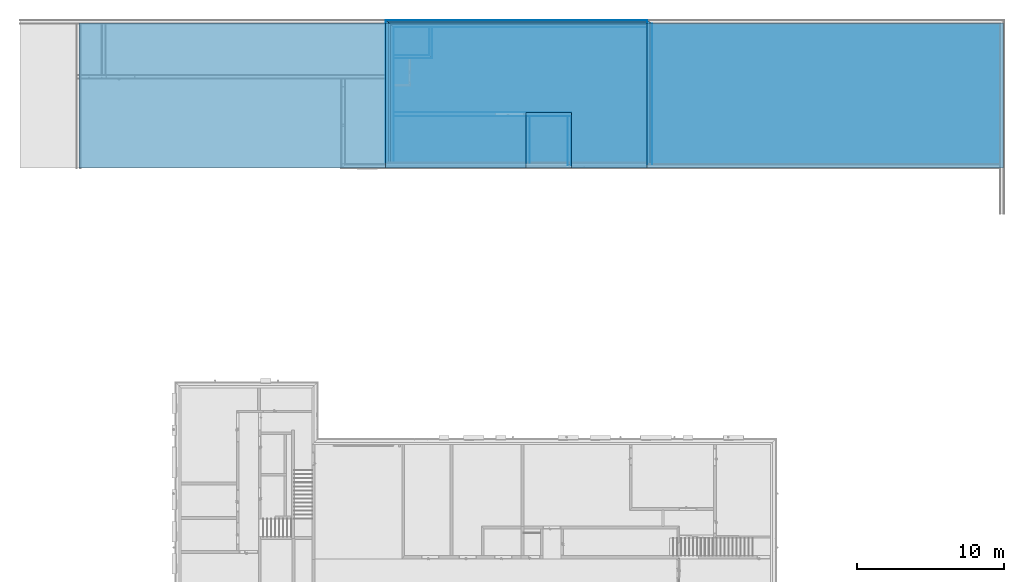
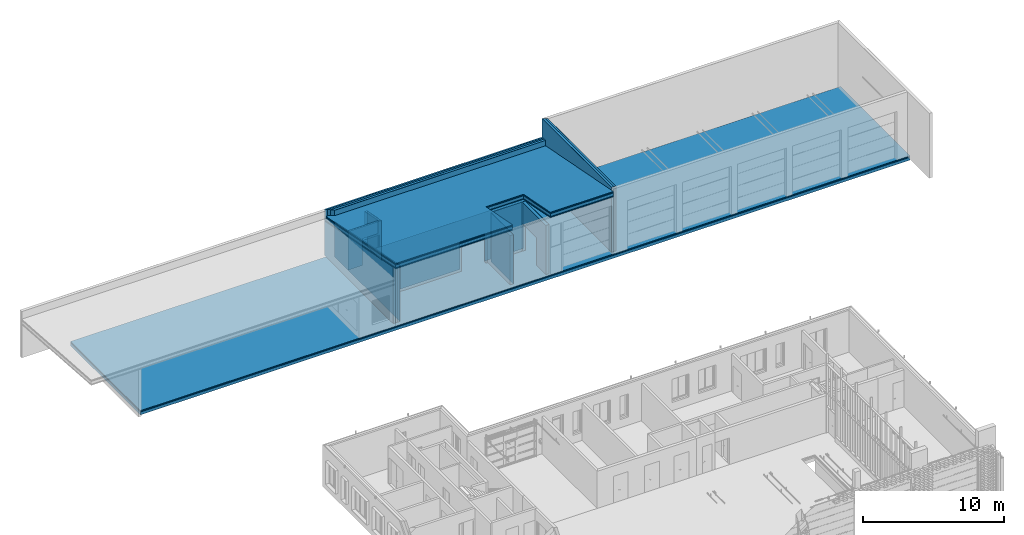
# One storey, part 25 of 62: 38 building element parts, 3 openings, 10 elements without a shape of their own.
"""IFC2X3 building model written with IfcOpenShell, lengths in millimetres."""

from ifc_helpers import new_model, entity, si_unit, converted_unit, derived_unit, money_unit, direction, frame, origin_with_axes, origin_2d_with_axis, place, context, subcontext, project, spatial, polyline, rectangle, outline, extrude, clip, halfspace, bounded_halfspace, material, type_object, element, aggregate, save


model = new_model("IFC2X3")

# Units and contexts
model_context = context("Model", 3, precision=0.01, world=origin_with_axes(), true_north=direction((0.0, 1.0)))
body_context = subcontext(model_context, "Body", "Model", "MODEL_VIEW")
ifc_project = project(units=[si_unit("LENGTHUNIT", "METRE", prefix="MILLI"), si_unit("AREAUNIT", "SQUARE_METRE"), si_unit("VOLUMEUNIT", "CUBIC_METRE"), converted_unit("PLANEANGLEUNIT", "DEGREE", entity("IfcPlaneAngleMeasure", 0.0174532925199), si_unit("PLANEANGLEUNIT", "RADIAN"), dimensions=[0, 0, 0, 0, 0, 0, 0]), si_unit("SOLIDANGLEUNIT", "STERADIAN"), money_unit("EUR"), converted_unit("TIMEUNIT", "Year", entity("IfcTimeMeasure", 31556926.0), si_unit("TIMEUNIT", "SECOND"), dimensions=[0, 0, 1, 0, 0, 0, 0]), si_unit("MASSUNIT", "GRAM", prefix="KILO"), si_unit("THERMODYNAMICTEMPERATUREUNIT", "DEGREE_CELSIUS"), si_unit("LUMINOUSINTENSITYUNIT", "LUMEN"), si_unit("ENERGYUNIT", "JOULE", prefix="MEGA"), derived_unit("THERMALCONDUCTANCEUNIT", [(si_unit("POWERUNIT", "WATT"), 1), (si_unit("LENGTHUNIT", "METRE"), -1), (si_unit("THERMODYNAMICTEMPERATUREUNIT", "KELVIN"), -1)]), derived_unit("SPECIFICHEATCAPACITYUNIT", [(si_unit("ENERGYUNIT", "JOULE"), 1), (si_unit("MASSUNIT", "GRAM", prefix="KILO"), -1), (si_unit("THERMODYNAMICTEMPERATUREUNIT", "KELVIN"), -1)]), derived_unit("MASSDENSITYUNIT", [(si_unit("MASSUNIT", "GRAM", prefix="KILO"), 1), (si_unit("VOLUMEUNIT", "CUBIC_METRE"), -1)])], contexts=[model_context])

# Site, building, storey
site_placement = place(None, origin_with_axes())
site = spatial("IfcSite", under=ifc_project, at=site_placement, Name="KIRDE 14, ELVA", CompositionType="ELEMENT")
building_placement = place(site_placement, origin_with_axes())
building = spatial("IfcBuilding", under=site, at=building_placement, Name="PPA ja Päästeameti ühishoone", CompositionType="ELEMENT")
storey_placement = place(building_placement, origin_with_axes())
storey = spatial("IfcBuildingStorey", under=building, at=storey_placement, Name="Esimene korrus", CompositionType="ELEMENT", Elevation=0.0)

# Wall, building element parts
wall_type_1 = type_object("IfcWallType", Name="A-VS01 497", PredefinedType="NOTDEFINED")
wall_1_placement = place(storey_placement, frame((32017.6217775, 49101.5478995, 0.0), z_axis=(0.0, 0.0, 1.0), x_axis=(-1.0, 0.0, 0.0)))
wall_1 = element("IfcWall", 1, at=wall_1_placement, inside=storey, type_object=wall_type_1, Name="A-VS02")
ifc_material_1 = material(Name="Krohv")
building_element_part_1_placement = place(wall_1_placement, origin_with_axes())
building_element_part_1 = element("IfcBuildingElementPart", 2, at=building_element_part_1_placement, material=ifc_material_1, Name="Krohv", context=body_context, shape_type="SweptSolid", body=[
    extrude(outline(polyline([(350.0, -12.0), (17579.8558887, -12.0), (17566.6486452, 0.0), (350.0, 0.0), (350.0, -12.0)])), origin_with_axes(), (0.0, 0.0, 1.0), 4000.0),
])
ifc_material_2 = material(Name="COLUMBIA KIVI")
building_element_part_2_placement = place(wall_1_placement, origin_with_axes())
building_element_part_2 = element("IfcBuildingElementPart", 3, at=building_element_part_2_placement, material=ifc_material_2, Name="COLUMBIA KIVI", context=body_context, shape_type="SweptSolid", body=[
    extrude(outline(polyline([(350.0, -202.0), (17788.9705768, -202.0), (17579.8558887, -12.0), (350.0, -12.0), (350.0, -202.0)])), origin_with_axes(), (0.0, 0.0, 1.0), 4000.0),
])
ifc_material_3 = material(Name="Mineraalvill")
building_element_part_3_placement = place(wall_1_placement, origin_with_axes())
building_element_part_3 = element("IfcBuildingElementPart", 4, at=building_element_part_3_placement, material=ifc_material_3, Name="Mineraalvill", context=body_context, shape_type="SweptSolid", body=[
    extrude(outline(polyline([(350.0, -352.0), (17954.0611201, -352.0), (17788.9705768, -202.0), (350.0, -202.0), (350.0, -352.0)])), origin_with_axes(), (0.0, 0.0, 1.0), 4000.0),
])
building_element_part_4_placement = place(wall_1_placement, origin_with_axes())
building_element_part_4 = element("IfcBuildingElementPart", 5, at=building_element_part_4_placement, material=ifc_material_2, Name="COLUMBIA KIVI", context=body_context, shape_type="SweptSolid", body=[
    extrude(outline(polyline([(350.0, -492.0), (18108.1456271, -492.0), (17954.0611201, -352.0), (350.0, -352.0), (350.0, -492.0)])), origin_with_axes(), (0.0, 0.0, 1.0), 4000.0),
])
building_element_part_5_placement = place(wall_1_placement, origin_with_axes())
building_element_part_5 = element("IfcBuildingElementPart", 6, at=building_element_part_5_placement, material=ifc_material_1, Name="Krohv", context=body_context, shape_type="SweptSolid", body=[
    extrude(outline(polyline([(350.0, -497.0), (18113.6486452, -497.0), (18108.1456271, -492.0), (350.0, -492.0), (350.0, -497.0)])), origin_with_axes(), (0.0, 0.0, 1.0), 4000.0),
])
aggregate(wall_1, [building_element_part_1, building_element_part_2, building_element_part_3, building_element_part_4, building_element_part_5])

# Wall, opening, building element parts
wall_type_2 = type_object("IfcWallType", Name="A-SS01 260", PredefinedType="USERDEFINED")
wall_2_placement = place(storey_placement, frame((26266.6550172, 43320.5479045, 0.0), z_axis=(0.0, 0.0, 1.0), x_axis=(0.0, -1.0, 0.0)))
wall_2 = element("IfcWall", 7, at=wall_2_placement, inside=storey, type_object=wall_type_2, Name="ASS-01", ObjectType="PARTITIONING")
opening_1_placement = place(wall_2_placement, frame((1275.2882142, 0.0, 0.0), z_axis=(0.0, 0.0, 1.0), x_axis=(1.0, 0.0, 0.0)))
element("IfcOpeningElement", 8, at=opening_1_placement, cuts=wall_2, Name="SUA-01", context=body_context, shape_type="SweptSolid", body=[
    extrude(rectangle(XDim=2000.0, YDim=2380.0, at=origin_2d_with_axis()), frame((0.0, -260.0, 1190.0), z_axis=(0.0, -1.0, 0.0), x_axis=(-1.0, 0.0, 0.0)), (0.0, 0.0, -1.0), 780.0),
])
building_element_part_6_placement = place(wall_2_placement, origin_with_axes())
building_element_part_6 = element("IfcBuildingElementPart", 9, at=building_element_part_6_placement, material=ifc_material_1, Name="Krohv", context=body_context, shape_type="SweptSolid", body=[
    extrude(outline(polyline([(260.0, 0.0), (3591.00001647, 0.0), (3591.00001647, 5.0), (260.0, 5.0), (260.0, 0.0)])), origin_with_axes(), (0.0, 0.0, 1.0), 4242.94093413),
])
building_element_part_7_placement = place(wall_2_placement, origin_with_axes())
building_element_part_7 = element("IfcBuildingElementPart", 10, at=building_element_part_7_placement, material=ifc_material_2, Name="COLUMBIA KIVI", context=body_context, shape_type="SweptSolid", body=[
    extrude(outline(polyline([(260.0, 5.0), (3591.00001647, 5.0), (3591.00001647, 255.0), (260.0, 255.0), (260.0, 5.0)])), origin_with_axes(), (0.0, 0.0, 1.0), 4242.94093413),
])
building_element_part_8_placement = place(wall_2_placement, origin_with_axes())
building_element_part_8 = element("IfcBuildingElementPart", 11, at=building_element_part_8_placement, material=ifc_material_1, Name="Krohv", context=body_context, shape_type="SweptSolid", body=[
    extrude(outline(polyline([(260.0, 255.0), (3591.00001647, 255.0), (3591.00001647, 260.0), (260.0, 260.0), (260.0, 255.0)])), origin_with_axes(), (0.0, 0.0, 1.0), 4242.94093413),
])
aggregate(wall_2, [building_element_part_6, building_element_part_7, building_element_part_8])

# Plate, building element parts
plate_type = type_object("IfcPlateType", Name="A-PP01 370", PredefinedType="NOTDEFINED")
plate_placement = place(storey_placement, frame((-6935.83149044, 49393.5478739, 0.0), z_axis=(0.0, 0.0, 1.0), x_axis=(1.0, 0.0, 0.0)))
plate = element("IfcPlate", 12, at=plate_placement, inside=storey, type_object=plate_type, Name="A-PP01")
ifc_material_4 = material(Name="Kruus")
building_element_part_9_placement = place(plate_placement, origin_with_axes())
building_element_part_9 = element("IfcBuildingElementPart", 13, at=building_element_part_9_placement, material=ifc_material_4, Name="Kruus", context=body_context, shape_type="SweptSolid", body=[
    extrude(outline(polyline([(0.0, 0.0), (4.15262224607e-06, -9859.00003472), (62831.0930339, -9859.00001009), (62831.0930302, 2.73794285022e-05), (0.0, 0.0)])), frame((0.0, 0.0, -370.0), z_axis=(0.0, 0.0, 1.0), x_axis=(1.0, 0.0, 0.0)), (0.0, 0.0, 1.0), 250.0),
])
ifc_material_5 = material(Name="Liiv (2)")
building_element_part_10_placement = place(plate_placement, origin_with_axes())
building_element_part_10 = element("IfcBuildingElementPart", 14, at=building_element_part_10_placement, material=ifc_material_5, Name="Liiv (2)", context=body_context, shape_type="SweptSolid", body=[
    extrude(outline(polyline([(0.0, 0.0), (4.15262224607e-06, -9859.00003472), (62831.0930339, -9859.00001009), (62831.0930302, 2.73794285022e-05), (0.0, 0.0)])), frame((0.0, 0.0, -120.0), z_axis=(0.0, 0.0, 1.0), x_axis=(1.0, 0.0, 0.0)), (0.0, 0.0, 1.0), 40.0),
])
ifc_material_6 = material(Name="Betoonkivi")
building_element_part_11_placement = place(plate_placement, origin_with_axes())
building_element_part_11 = element("IfcBuildingElementPart", 15, at=building_element_part_11_placement, material=ifc_material_6, Name="Betoonkivi", context=body_context, shape_type="SweptSolid", body=[
    extrude(outline(polyline([(0.0, 0.0), (4.15262224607e-06, -9859.00003472), (62831.0930339, -9859.00001009), (62831.0930302, 2.73794285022e-05), (0.0, 0.0)])), frame((0.0, 0.0, -80.0), z_axis=(0.0, 0.0, 1.0), x_axis=(1.0, 0.0, 0.0)), (0.0, 0.0, 1.0), 80.0),
])
aggregate(plate, [building_element_part_9, building_element_part_10, building_element_part_11])

# Wall, building element parts
wall_type_3 = type_object("IfcWallType", Name="A-VS01b 350", PredefinedType="NOTDEFINED")
wall_3_placement = place(storey_placement, frame((32017.6217775, 39784.5478473, 0.0), z_axis=(0.0, 0.0, 1.0), x_axis=(0.0, 1.0, 0.0)))
wall_3 = element("IfcWall", 16, at=wall_3_placement, inside=storey, type_object=wall_type_3, Name="VS-06")
building_element_part_12_placement = place(wall_3_placement, origin_with_axes())
building_element_part_12 = element("IfcBuildingElementPart", 17, at=building_element_part_12_placement, material=ifc_material_1, Name="Krohv", context=body_context, shape_type="SweptSolid", body=[
    extrude(outline(polyline([(0.0, 0.0), (9564.00005223, 0.0), (9567.57148081, 5.0), (0.0, 5.0), (0.0, 0.0)])), origin_with_axes(), (0.0, 0.0, 1.0), 5600.0),
])
building_element_part_13_placement = place(wall_3_placement, origin_with_axes())
building_element_part_13 = element("IfcBuildingElementPart", 18, at=building_element_part_13_placement, material=ifc_material_3, Name="Mineraalvill", context=body_context, shape_type="SweptSolid", body=[
    extrude(outline(polyline([(0.0, 5.0), (9567.57148081, 5.0), (9674.71433795, 155.0), (0.0, 155.0), (0.0, 5.0)])), origin_with_axes(), (0.0, 0.0, 1.0), 5600.0),
])
building_element_part_14_placement = place(wall_3_placement, origin_with_axes())
building_element_part_14 = element("IfcBuildingElementPart", 19, at=building_element_part_14_placement, material=ifc_material_2, Name="COLUMBIA KIVI", context=body_context, shape_type="SweptSolid", body=[
    extrude(outline(polyline([(0.0, 155.0), (9674.71433795, 155.0), (9810.42862366, 345.0), (0.0, 345.0), (0.0, 155.0)])), origin_with_axes(), (0.0, 0.0, 1.0), 5600.0),
])
building_element_part_15_placement = place(wall_3_placement, origin_with_axes())
building_element_part_15 = element("IfcBuildingElementPart", 20, at=building_element_part_15_placement, material=ifc_material_1, Name="Krohv", context=body_context, shape_type="SweptSolid", body=[
    extrude(outline(polyline([(0.0, 345.0), (9810.42862366, 345.0), (9814.00005223, 350.0), (0.0, 350.0), (0.0, 345.0)])), origin_with_axes(), (0.0, 0.0, 1.0), 5600.0),
])
aggregate(wall_3, [building_element_part_12, building_element_part_13, building_element_part_14, building_element_part_15])

# Wall, opening, building element parts
wall_4_placement = place(storey_placement, frame((26526.6550158, 43320.5479045, 0.0), z_axis=(0.0, 0.0, 1.0), x_axis=(-1.0, 0.0, 0.0)))
wall_4 = element("IfcWall", 21, at=wall_4_placement, inside=storey, type_object=wall_type_2, Name="ASS-01", ObjectType="PARTITIONING")
opening_2_placement = place(wall_4_placement, frame((4204.68193733, 0.0, 0.0), z_axis=(0.0, 0.0, 1.0), x_axis=(1.0, 0.0, 0.0)))
element("IfcOpeningElement", 22, at=opening_2_placement, cuts=wall_4, Name="SUA-02", context=body_context, shape_type="SweptSolid", body=[
    extrude(rectangle(XDim=2000.0, YDim=2380.0, at=origin_2d_with_axis()), frame((0.0, -260.0, 1190.0), z_axis=(0.0, -1.0, 0.0), x_axis=(-1.0, 0.0, 0.0)), (0.0, 0.0, -1.0), 780.0),
])
building_element_part_16_placement = place(wall_4_placement, origin_with_axes())
building_element_part_16 = element("IfcBuildingElementPart", 23, at=building_element_part_16_placement, material=ifc_material_1, Name="Krohv", context=body_context, shape_type="SweptSolid", body=[
    extrude(outline(polyline([(0.0, 0.0), (12075.6818835, 0.0), (12075.6818835, 5.0), (0.0, 5.0), (0.0, 0.0)])), origin_with_axes(), (0.0, 0.0, 1.0), 4242.94093413),
])
building_element_part_17_placement = place(wall_4_placement, origin_with_axes())
building_element_part_17 = element("IfcBuildingElementPart", 24, at=building_element_part_17_placement, material=ifc_material_2, Name="COLUMBIA KIVI", context=body_context, shape_type="SweptSolid", body=[
    extrude(outline(polyline([(0.0, 5.0), (12075.6818835, 5.0), (12075.6818835, 255.0), (0.0, 255.0), (0.0, 5.0)])), origin_with_axes(), (0.0, 0.0, 1.0), 4242.94093413),
])
building_element_part_18_placement = place(wall_4_placement, origin_with_axes())
building_element_part_18 = element("IfcBuildingElementPart", 25, at=building_element_part_18_placement, material=ifc_material_1, Name="Krohv", context=body_context, shape_type="SweptSolid", body=[
    extrude(outline(polyline([(0.0, 255.0), (12075.6818835, 255.0), (12075.6818835, 260.0), (0.0, 260.0), (0.0, 255.0)])), origin_with_axes(), (0.0, 0.0, 1.0), 4242.94093413),
])
aggregate(wall_4, [building_element_part_16, building_element_part_17, building_element_part_18])

wall_type_4 = type_object("IfcWallType", Name="A-SS02 200", PredefinedType="USERDEFINED")
wall_5_placement = place(storey_placement, frame((17080.7766281, 46991.7591428, 0.0), z_axis=(0.0, 0.0, 1.0), x_axis=(-1.0, 0.0, 0.0)))
wall_5 = element("IfcWall", 26, at=wall_5_placement, inside=storey, type_object=wall_type_4, Name="ASS-01", ObjectType="PARTITIONING")
opening_3_placement = place(wall_5_placement, frame((828.000064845, 0.0, 0.0), z_axis=(0.0, 0.0, 1.0), x_axis=(1.0, 0.0, 0.0)))
element("IfcOpeningElement", 27, at=opening_3_placement, cuts=wall_5, Name="SU-11", context=body_context, shape_type="SweptSolid", body=[
    extrude(rectangle(XDim=1290.00012986, YDim=2300.0, at=origin_2d_with_axis()), frame((0.0, 200.0, 1150.0), z_axis=(0.0, -1.0, 0.0), x_axis=(1.0, 0.0, 0.0)), (0.0, 0.0, 1.0), 600.0),
])
building_element_part_19_placement = place(wall_5_placement, origin_with_axes())
building_element_part_19 = element("IfcBuildingElementPart", 28, at=building_element_part_19_placement, material=ifc_material_1, Name="Krohv", context=body_context, shape_type="Clipping", body=[
    clip(extrude(outline(polyline([(5.0, -5.0), (2629.80349589, -5.0), (2629.80349589, 0.0), (0.0, 0.0), (5.0, -5.0)])), origin_with_axes(), (0.0, 0.0, 1.0), 4242.94093413), halfspace(frame((-7.4741606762e-10, -650.580307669, 3352.957647), z_axis=(0.0, 0.190479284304, -0.981691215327), x_axis=(0.0, 0.981691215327, 0.190479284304)), True)),
])
building_element_part_20_placement = place(wall_5_placement, origin_with_axes())
building_element_part_20 = element("IfcBuildingElementPart", 29, at=building_element_part_20_placement, material=ifc_material_2, Name="COLUMBIA KIVI", context=body_context, shape_type="Clipping", body=[
    clip(extrude(outline(polyline([(195.0, -195.0), (2629.80349589, -195.0), (2629.80349589, -5.0), (5.0, -5.0), (195.0, -195.0)])), origin_with_axes(), (0.0, 0.0, 1.0), 4242.94093413), halfspace(frame((-7.4741606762e-10, -650.580307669, 3352.957647), z_axis=(0.0, 0.190479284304, -0.981691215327), x_axis=(0.0, 0.981691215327, 0.190479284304)), True)),
])
building_element_part_21_placement = place(wall_5_placement, origin_with_axes())
building_element_part_21 = element("IfcBuildingElementPart", 30, at=building_element_part_21_placement, material=ifc_material_1, Name="Krohv", context=body_context, shape_type="Clipping", body=[
    clip(extrude(outline(polyline([(200.0, -200.0), (2629.80349589, -200.0), (2629.80349589, -195.0), (195.0, -195.0), (200.0, -200.0)])), origin_with_axes(), (0.0, 0.0, 1.0), 4242.94093413), halfspace(frame((-7.4741606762e-10, -650.580307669, 3352.957647), z_axis=(0.0, 0.190479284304, -0.981691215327), x_axis=(0.0, 0.981691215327, 0.190479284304)), True)),
])
aggregate(wall_5, [building_element_part_19, building_element_part_20, building_element_part_21])

# Wall, building element parts
wall_6_placement = place(storey_placement, frame((17080.7766281, 49101.5478995, 0.0), z_axis=(0.0, 0.0, 1.0), x_axis=(0.0, -1.0, 0.0)))
wall_6 = element("IfcWall", 31, at=wall_6_placement, inside=storey, type_object=wall_type_4, Name="ASS-01", ObjectType="PARTITIONING")
building_element_part_22_placement = place(wall_6_placement, origin_with_axes())
building_element_part_22 = element("IfcBuildingElementPart", 32, at=building_element_part_22_placement, material=ifc_material_1, Name="Krohv", context=body_context, shape_type="Clipping", body=[
    clip(extrude(outline(polyline([(0.0, -5.0), (2104.78875668, -5.0), (2109.78875668, 0.0), (0.0, 0.0), (0.0, -5.0)])), origin_with_axes(), (0.0, 0.0, 1.0), 4242.94093413), halfspace(frame((-574.032197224, -9.04117879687e-08, 2958.44436516), z_axis=(0.190479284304, 0.0, -0.981691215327), x_axis=(0.0, 1.0, 0.0)), True)),
])
building_element_part_23_placement = place(wall_6_placement, origin_with_axes())
building_element_part_23 = element("IfcBuildingElementPart", 33, at=building_element_part_23_placement, material=ifc_material_2, Name="COLUMBIA KIVI", context=body_context, shape_type="Clipping", body=[
    clip(extrude(outline(polyline([(0.0, -195.0), (1914.78875668, -195.0), (2104.78875668, -5.0), (0.0, -5.0), (0.0, -195.0)])), origin_with_axes(), (0.0, 0.0, 1.0), 4242.94093413), halfspace(frame((-574.032197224, -9.04117879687e-08, 2958.44436516), z_axis=(0.190479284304, 0.0, -0.981691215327), x_axis=(0.0, 1.0, 0.0)), True)),
])
building_element_part_24_placement = place(wall_6_placement, origin_with_axes())
building_element_part_24 = element("IfcBuildingElementPart", 34, at=building_element_part_24_placement, material=ifc_material_1, Name="Krohv", context=body_context, shape_type="Clipping", body=[
    clip(extrude(outline(polyline([(0.0, -200.0), (1909.78875668, -200.0), (1914.78875668, -195.0), (0.0, -195.0), (0.0, -200.0)])), origin_with_axes(), (0.0, 0.0, 1.0), 4242.94093413), halfspace(frame((-574.032197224, -9.04117879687e-08, 2958.44436516), z_axis=(0.190479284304, 0.0, -0.981691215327), x_axis=(0.0, 1.0, 0.0)), True)),
])
aggregate(wall_6, [building_element_part_22, building_element_part_23, building_element_part_24])

# Slab, building element parts
slab_type = type_object("IfcSlabType", Name="GKK-01_Geneeriline Katus/Koorik 465", PredefinedType="ROOF")
slab_placement = place(storey_placement, frame((21029.3627665, 49345.2930059, 3022.53055434), z_axis=(0.0, 0.0, 1.0), x_axis=(1.0, 3.51384026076e-10, 0.0)))
slab = element("IfcSlab", 35, at=slab_placement, inside=storey, type_object=slab_type, Name="KATUS", PredefinedType="ROOF")
ifc_material_7 = material(Name="Laudis")
building_element_part_25_placement = place(slab_placement, origin_with_axes())
building_element_part_25 = element("IfcBuildingElementPart", 36, at=building_element_part_25_placement, material=ifc_material_7, Name="Laudis", context=body_context, shape_type="SweptSolid", body=[
    extrude(outline(polyline([(-7125.38963777, -9993.71798567), (2421.6103613, -9993.71798909), (2421.61036263, -6137.10809285), (5497.2922485, -6137.10809395), (5497.29224717, -9993.71799137), (10648.2590072, -9993.71799322), (10648.2590106, 49.1548702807), (-7125.3896343, 49.1548766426), (-7125.38963777, -9993.71798567)])), frame((0.0, 0.0, 0.0), z_axis=(0.0, 0.190479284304, 0.981691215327), x_axis=(1.0, 0.0, 0.0)), (0.0, -0.190479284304, 0.981691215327), 25.4662562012),
])
ifc_material_8 = material(Name="Tuulutusvahe (2)")
building_element_part_26_placement = place(slab_placement, origin_with_axes())
building_element_part_26 = element("IfcBuildingElementPart", 37, at=building_element_part_26_placement, material=ifc_material_8, Name="Tuulutusvahe (2)", context=body_context, shape_type="SweptSolid", body=[
    extrude(outline(polyline([(-7125.38963777, -9993.71798567), (2421.6103613, -9993.71798909), (2421.61036263, -6137.10809285), (5497.2922485, -6137.10809395), (5497.29224717, -9993.71799137), (10648.2590072, -9993.71799322), (10648.2590106, 49.1548702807), (-7125.3896343, 49.1548766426), (-7125.38963777, -9993.71798567)])), frame((0.0, 0.0, 25.4662562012), z_axis=(0.0, 0.190479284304, 0.981691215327), x_axis=(1.0, 0.0, 0.0)), (0.0, -0.190479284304, 0.981691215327), 76.3987686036),
])
ifc_material_9 = material(Name="ET-00_GENEERILINE - EHITUSTOODE")
building_element_part_27_placement = place(slab_placement, origin_with_axes())
building_element_part_27 = element("IfcBuildingElementPart", 38, at=building_element_part_27_placement, material=ifc_material_9, Name="ET-00_GENEERILINE - EHITUSTOODE", context=body_context, shape_type="SweptSolid", body=[
    extrude(outline(polyline([(-7125.38963777, -9993.71798567), (2421.6103613, -9993.71798909), (2421.61036263, -6137.10809285), (5497.2922485, -6137.10809395), (5497.29224717, -9993.71799137), (10648.2590072, -9993.71799322), (10648.2590106, 49.1548702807), (-7125.3896343, 49.1548766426), (-7125.38963777, -9993.71798567)])), frame((0.0, 0.0, 101.865024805), z_axis=(0.0, 0.190479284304, 0.981691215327), x_axis=(1.0, 0.0, 0.0)), (0.0, -0.190479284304, 0.981691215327), 244.476059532),
])
ifc_material_10 = material(Name="Profiilplekk")
building_element_part_28_placement = place(slab_placement, origin_with_axes())
building_element_part_28 = element("IfcBuildingElementPart", 39, at=building_element_part_28_placement, material=ifc_material_10, Name="Profiilplekk", context=body_context, shape_type="SweptSolid", body=[
    extrude(outline(polyline([(-7125.38963777, -9993.71798567), (2421.6103613, -9993.71798909), (2421.61036263, -6137.10809285), (5497.2922485, -6137.10809395), (5497.29224717, -9993.71799137), (10648.2590072, -9993.71799322), (10648.2590106, 49.1548702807), (-7125.3896343, 49.1548766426), (-7125.38963777, -9993.71798567)])), frame((0.0, 0.0, 346.341084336), z_axis=(0.0, 0.190479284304, 0.981691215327), x_axis=(1.0, 0.0, 0.0)), (0.0, -0.190479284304, 0.981691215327), 71.3055173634),
])
ifc_material_11 = material(Name="Vahtpolüstüreen (4)")
building_element_part_29_placement = place(slab_placement, origin_with_axes())
building_element_part_29 = element("IfcBuildingElementPart", 40, at=building_element_part_29_placement, material=ifc_material_11, Name="Vahtpolüstüreen (4)", context=body_context, shape_type="SweptSolid", body=[
    extrude(outline(polyline([(-7125.38963777, -9993.71798567), (2421.6103613, -9993.71798909), (2421.61036263, -6137.10809285), (5497.2922485, -6137.10809395), (5497.29224717, -9993.71799137), (10648.2590072, -9993.71799322), (10648.2590106, 49.1548702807), (-7125.3896343, 49.1548766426), (-7125.38963777, -9993.71798567)])), frame((0.0, 0.0, 417.6466017), z_axis=(0.0, 0.190479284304, 0.981691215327), x_axis=(1.0, 0.0, 0.0)), (0.0, -0.190479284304, 0.981691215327), 50.9325124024),
])
ifc_material_12 = material(Name="SBS Rullmaterjal")
building_element_part_30_placement = place(slab_placement, origin_with_axes())
building_element_part_30 = element("IfcBuildingElementPart", 41, at=building_element_part_30_placement, material=ifc_material_12, Name="SBS Rullmaterjal", context=body_context, shape_type="SweptSolid", body=[
    extrude(outline(polyline([(-7125.38963777, -9993.71798567), (2421.6103613, -9993.71798909), (2421.61036263, -6137.10809285), (5497.2922485, -6137.10809395), (5497.29224717, -9993.71799137), (10648.2590072, -9993.71799322), (10648.2590106, 49.1548702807), (-7125.3896343, 49.1548766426), (-7125.38963777, -9993.71798567)])), frame((0.0, 0.0, 468.579114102), z_axis=(0.0, 0.190479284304, 0.981691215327), x_axis=(1.0, 0.0, 0.0)), (0.0, -0.190479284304, 0.981691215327), 5.09325124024),
])
aggregate(slab, [building_element_part_25, building_element_part_26, building_element_part_27, building_element_part_28, building_element_part_29, building_element_part_30])

# Wall, building element parts
wall_type_5 = type_object("IfcWallType", Name="A-VS01a 547", PredefinedType="NOTDEFINED")
wall_7_placement = place(storey_placement, frame((14450.9731322, 39879.5479077, 0.0), z_axis=(0.0, 0.0, 1.0), x_axis=(0.0, 1.0, 0.0)))
wall_7 = element("IfcWall", 42, at=wall_7_placement, inside=storey, type_object=wall_type_5, Name="VS-06")
building_element_part_31_placement = place(wall_7_placement, origin_with_axes())
building_element_part_31 = element("IfcBuildingElementPart", 43, at=building_element_part_31_placement, material=ifc_material_1, Name="Krohv", context=body_context, shape_type="Clipping", body=[
    clip(clip(extrude(outline(polyline([(0.0, 0.0), (9221.99999178, 0.0), (9232.90309964, 12.0), (0.0, 12.0), (0.0, 0.0)])), origin_with_axes(), (0.0, 0.0, 1.0), 5000.0), bounded_halfspace(frame((908.628100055, 3.19277400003e-07, 4682.88311288), z_axis=(-0.190479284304, 0.0, -0.981691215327), x_axis=(0.0, 1.0, 0.0)), True, origin_with_axes(), polyline([(-435.999903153, -10.0), (9714.00996854, -10.0), (9714.00996854, 557.0), (-435.999903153, 557.0), (-435.999903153, -10.0)]))), bounded_halfspace(frame((908.628100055, 3.19277400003e-07, 4682.88311288), z_axis=(-0.190479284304, 0.0, -0.981691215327), x_axis=(0.0, 1.0, 0.0)), True, origin_with_axes(), polyline([(3461.99997713, -10.0), (9714.0099758, -10.0), (9714.00997461, 557.0), (3461.99997595, 557.0), (3461.99997713, -10.0)]))),
])
building_element_part_32_placement = place(wall_7_placement, origin_with_axes())
building_element_part_32 = element("IfcBuildingElementPart", 44, at=building_element_part_32_placement, material=ifc_material_2, Name="COLUMBIA KIVI", context=body_context, shape_type="Clipping", body=[
    clip(clip(extrude(outline(polyline([(0.0, 12.0), (9232.90309964, 12.0), (9405.53564077, 202.0), (0.0, 202.0), (0.0, 12.0)])), origin_with_axes(), (0.0, 0.0, 1.0), 5000.0), bounded_halfspace(frame((908.628100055, 3.19277400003e-07, 4682.88311288), z_axis=(-0.190479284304, 0.0, -0.981691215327), x_axis=(0.0, 1.0, 0.0)), True, origin_with_axes(), polyline([(-435.999903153, -10.0), (9714.00996854, -10.0), (9714.00996854, 557.0), (-435.999903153, 557.0), (-435.999903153, -10.0)]))), bounded_halfspace(frame((908.628100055, 3.19277400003e-07, 4682.88311288), z_axis=(-0.190479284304, 0.0, -0.981691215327), x_axis=(0.0, 1.0, 0.0)), True, origin_with_axes(), polyline([(3461.99997713, -10.0), (9714.0099758, -10.0), (9714.00997461, 557.0), (3461.99997595, 557.0), (3461.99997713, -10.0)]))),
])
building_element_part_33_placement = place(wall_7_placement, origin_with_axes())
building_element_part_33 = element("IfcBuildingElementPart", 45, at=building_element_part_33_placement, material=ifc_material_3, Name="Mineraalvill", context=body_context, shape_type="Clipping", body=[
    clip(clip(extrude(outline(polyline([(0.0, 202.0), (9405.53564077, 202.0), (9541.82448904, 352.0), (0.0, 352.0), (0.0, 202.0)])), origin_with_axes(), (0.0, 0.0, 1.0), 5000.0), bounded_halfspace(frame((908.628100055, 3.19277400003e-07, 4682.88311288), z_axis=(-0.190479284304, 0.0, -0.981691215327), x_axis=(0.0, 1.0, 0.0)), True, origin_with_axes(), polyline([(-435.999903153, -10.0), (9714.00996854, -10.0), (9714.00996854, 557.0), (-435.999903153, 557.0), (-435.999903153, -10.0)]))), bounded_halfspace(frame((908.628100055, 3.19277400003e-07, 4682.88311288), z_axis=(-0.190479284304, 0.0, -0.981691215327), x_axis=(0.0, 1.0, 0.0)), True, origin_with_axes(), polyline([(3461.99997713, -10.0), (9714.0099758, -10.0), (9714.00997461, 557.0), (3461.99997595, 557.0), (3461.99997713, -10.0)]))),
])
building_element_part_34_placement = place(wall_7_placement, origin_with_axes())
building_element_part_34 = element("IfcBuildingElementPart", 46, at=building_element_part_34_placement, material=ifc_material_2, Name="COLUMBIA KIVI", context=body_context, shape_type="Clipping", body=[
    clip(clip(extrude(outline(polyline([(0.0, 352.0), (9541.82448904, 352.0), (9714.45703017, 542.0), (0.0, 542.0), (0.0, 352.0)])), origin_with_axes(), (0.0, 0.0, 1.0), 5000.0), bounded_halfspace(frame((908.628100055, 3.19277400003e-07, 4682.88311288), z_axis=(-0.190479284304, 0.0, -0.981691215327), x_axis=(0.0, 1.0, 0.0)), True, origin_with_axes(), polyline([(-435.999903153, -10.0), (9714.00996854, -10.0), (9714.00996854, 557.0), (-435.999903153, 557.0), (-435.999903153, -10.0)]))), bounded_halfspace(frame((908.628100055, 3.19277400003e-07, 4682.88311288), z_axis=(-0.190479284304, 0.0, -0.981691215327), x_axis=(0.0, 1.0, 0.0)), True, origin_with_axes(), polyline([(3461.99997713, -10.0), (9714.0099758, -10.0), (9714.00997461, 557.0), (3461.99997595, 557.0), (3461.99997713, -10.0)]))),
])
building_element_part_35_placement = place(wall_7_placement, origin_with_axes())
building_element_part_35 = element("IfcBuildingElementPart", 47, at=building_element_part_35_placement, material=ifc_material_1, Name="Krohv", context=body_context, shape_type="Clipping", body=[
    clip(clip(extrude(outline(polyline([(0.0, 542.0), (9714.45703017, 542.0), (9718.99999178, 547.0), (0.0, 547.0), (0.0, 542.0)])), origin_with_axes(), (0.0, 0.0, 1.0), 5000.0), bounded_halfspace(frame((908.628100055, 3.19277400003e-07, 4682.88311288), z_axis=(-0.190479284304, 0.0, -0.981691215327), x_axis=(0.0, 1.0, 0.0)), True, origin_with_axes(), polyline([(-435.999903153, -10.0), (9714.00996854, -10.0), (9714.00996854, 557.0), (-435.999903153, 557.0), (-435.999903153, -10.0)]))), bounded_halfspace(frame((908.628100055, 3.19277400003e-07, 4682.88311288), z_axis=(-0.190479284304, 0.0, -0.981691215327), x_axis=(0.0, 1.0, 0.0)), True, origin_with_axes(), polyline([(3461.99997713, -10.0), (9714.0099758, -10.0), (9714.00997461, 557.0), (3461.99997595, 557.0), (3461.99997713, -10.0)]))),
])
aggregate(wall_7, [building_element_part_31, building_element_part_32, building_element_part_33, building_element_part_34, building_element_part_35])

wall_8_placement = place(storey_placement, frame((23450.9731313, 43320.5479045, 0.0), z_axis=(0.0, 0.0, 1.0), x_axis=(0.0, -1.0, 0.0)))
wall_8 = element("IfcWall", 48, at=wall_8_placement, inside=storey, type_object=wall_type_2, Name="ASS-01", ObjectType="PARTITIONING")
building_element_part_36_placement = place(wall_8_placement, origin_with_axes())
building_element_part_36 = element("IfcBuildingElementPart", 49, at=building_element_part_36_placement, material=ifc_material_1, Name="Krohv", context=body_context, shape_type="SweptSolid", body=[
    extrude(outline(polyline([(260.0, 0.0), (3436.00005723, 0.0), (3436.00005723, 5.0), (260.0, 5.0), (260.0, 0.0)])), origin_with_axes(), (0.0, 0.0, 1.0), 4242.94093413),
])
building_element_part_37_placement = place(wall_8_placement, origin_with_axes())
building_element_part_37 = element("IfcBuildingElementPart", 50, at=building_element_part_37_placement, material=ifc_material_2, Name="COLUMBIA KIVI", context=body_context, shape_type="SweptSolid", body=[
    extrude(outline(polyline([(260.0, 5.0), (3436.00005723, 5.0), (3436.00005723, 255.0), (260.0, 255.0), (260.0, 5.0)])), origin_with_axes(), (0.0, 0.0, 1.0), 4242.94093413),
])
building_element_part_38_placement = place(wall_8_placement, origin_with_axes())
building_element_part_38 = element("IfcBuildingElementPart", 51, at=building_element_part_38_placement, material=ifc_material_1, Name="Krohv", context=body_context, shape_type="SweptSolid", body=[
    extrude(outline(polyline([(260.0, 255.0), (3436.00005723, 255.0), (3436.00005723, 260.0), (260.0, 260.0), (260.0, 255.0)])), origin_with_axes(), (0.0, 0.0, 1.0), 4242.94093413),
])
aggregate(wall_8, [building_element_part_36, building_element_part_37, building_element_part_38])

save(model, "model.ifc")
